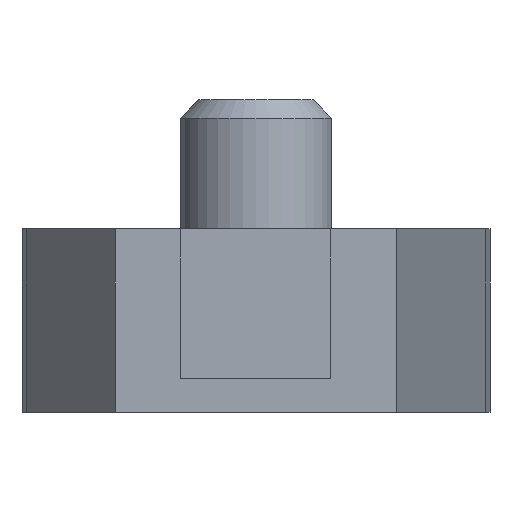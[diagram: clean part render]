
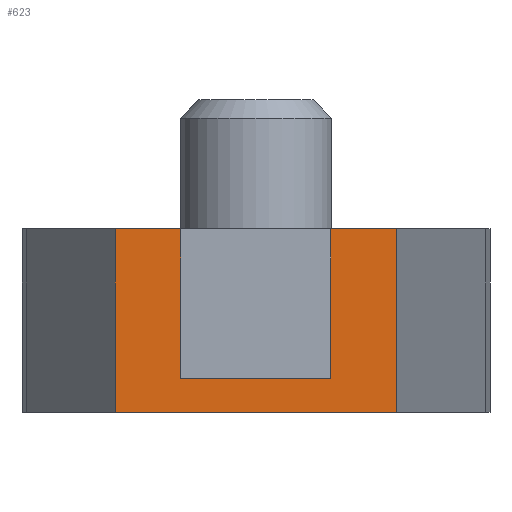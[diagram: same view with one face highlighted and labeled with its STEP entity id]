
A CAD part, front view. The second image highlights one B-rep face of the part: STEP entity #623.
In plain terms, the highlighted planar face has unit normal (0, -1, 0).
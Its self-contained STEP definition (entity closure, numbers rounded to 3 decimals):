
#27=LINE('',#906,#97);
#37=LINE('',#927,#107);
#43=LINE('',#938,#113);
#44=LINE('',#940,#114);
#45=LINE('',#942,#115);
#46=LINE('',#944,#116);
#47=LINE('',#945,#117);
#48=LINE('',#947,#118);
#97=VECTOR('',#730,1000.);
#107=VECTOR('',#742,1000.);
#113=VECTOR('',#750,1000.);
#114=VECTOR('',#751,1000.);
#115=VECTOR('',#752,1000.);
#116=VECTOR('',#753,1000.);
#117=VECTOR('',#754,1000.);
#118=VECTOR('',#755,1000.);
#185=ORIENTED_EDGE('',*,*,#354,.T.);
#186=ORIENTED_EDGE('',*,*,#355,.F.);
#187=ORIENTED_EDGE('',*,*,#356,.F.);
#188=ORIENTED_EDGE('',*,*,#357,.T.);
#189=ORIENTED_EDGE('',*,*,#338,.F.);
#190=ORIENTED_EDGE('',*,*,#358,.F.);
#191=ORIENTED_EDGE('',*,*,#359,.F.);
#192=ORIENTED_EDGE('',*,*,#348,.T.);
#338=EDGE_CURVE('',#423,#424,#27,.T.);
#348=EDGE_CURVE('',#434,#432,#37,.T.);
#354=EDGE_CURVE('',#432,#438,#43,.T.);
#355=EDGE_CURVE('',#439,#438,#44,.T.);
#356=EDGE_CURVE('',#440,#439,#45,.T.);
#357=EDGE_CURVE('',#440,#424,#46,.T.);
#358=EDGE_CURVE('',#441,#423,#47,.T.);
#359=EDGE_CURVE('',#434,#441,#48,.T.);
#423=VERTEX_POINT('',#905);
#424=VERTEX_POINT('',#907);
#432=VERTEX_POINT('',#925);
#434=VERTEX_POINT('',#928);
#438=VERTEX_POINT('',#939);
#439=VERTEX_POINT('',#941);
#440=VERTEX_POINT('',#943);
#441=VERTEX_POINT('',#946);
#494=EDGE_LOOP('',(#185,#186,#187,#188,#189,#190,#191,#192));
#546=FACE_BOUND('',#494,.T.);
#597=PLANE('',#671);
#623=ADVANCED_FACE('',(#546),#597,.F.);
#671=AXIS2_PLACEMENT_3D('',#937,#748,#749);
#730=DIRECTION('',(1.,0.,0.));
#742=DIRECTION('',(0.,0.,-1.));
#748=DIRECTION('',(0.,1.,0.));
#749=DIRECTION('',(0.,0.,1.));
#750=DIRECTION('',(1.,0.,0.));
#751=DIRECTION('',(0.,0.,-1.));
#752=DIRECTION('',(1.,0.,0.));
#753=DIRECTION('',(0.,0.,-1.));
#754=DIRECTION('',(0.,0.,-1.));
#755=DIRECTION('',(1.,0.,0.));
#905=CARTESIAN_POINT('',(-55.25,-10.573,39.05));
#906=CARTESIAN_POINT('',(-45.5,-10.573,39.05));
#907=CARTESIAN_POINT('',(-47.25,-10.573,39.05));
#925=CARTESIAN_POINT('',(-58.75,-10.573,37.25));
#927=CARTESIAN_POINT('',(-58.75,-10.573,39.05));
#928=CARTESIAN_POINT('',(-58.75,-10.573,47.05));
#937=CARTESIAN_POINT('',(-45.5,-10.573,39.05));
#938=CARTESIAN_POINT('',(-45.5,-10.573,37.25));
#939=CARTESIAN_POINT('',(-43.75,-10.573,37.25));
#940=CARTESIAN_POINT('',(-43.75,-10.573,39.05));
#941=CARTESIAN_POINT('',(-43.75,-10.573,47.05));
#942=CARTESIAN_POINT('',(-45.5,-10.573,47.05));
#943=CARTESIAN_POINT('',(-47.25,-10.573,47.05));
#944=CARTESIAN_POINT('',(-47.25,-10.573,47.05));
#945=CARTESIAN_POINT('',(-55.25,-10.573,47.05));
#946=CARTESIAN_POINT('',(-55.25,-10.573,47.05));
#947=CARTESIAN_POINT('',(-45.5,-10.573,47.05));
